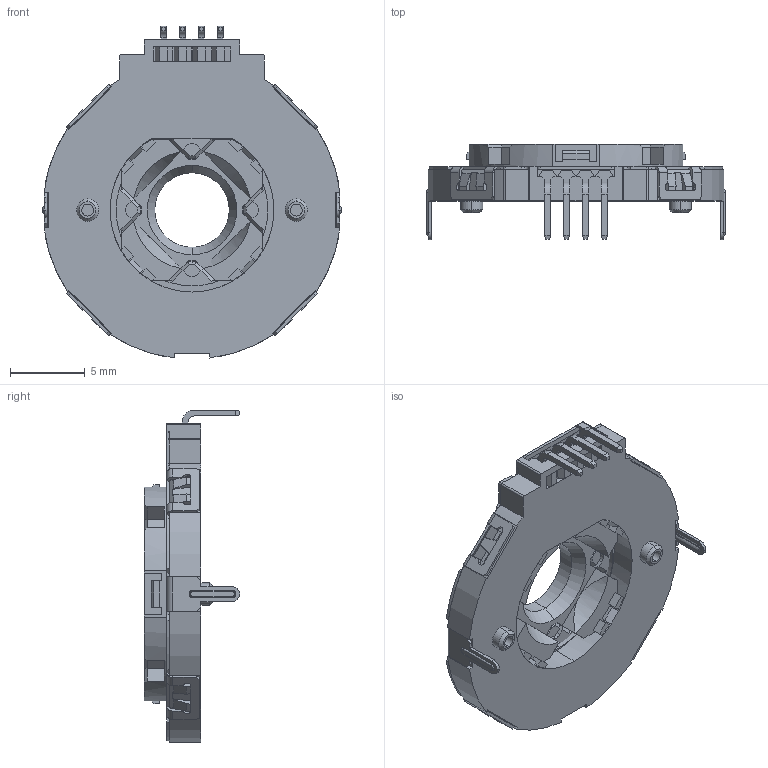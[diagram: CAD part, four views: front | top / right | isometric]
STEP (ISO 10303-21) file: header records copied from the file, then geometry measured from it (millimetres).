
FILE_DESCRIPTION (( 'STEP AP203' ), '1' );
FILE_NAME ('292V1X24A_Rev.0.STEP', '2019-12-10T03:56:54', ( '' ), ( '' ), 'SwSTEP 2.0', 'SolidWorks 2019', '' );
FILE_SCHEMA (( 'CONFIG_CONTROL_DESIGN' ));
Length unit declared in the file: millimetre
Products named in the file (14): 292-14-001-44-01 Rev.B Rotor.STEP; 0402 4.7KR 1%.STEP; 13M291L-40-002-07-15 Rev.B Cover.STEP; 13M291L-20-002B.STEP; 292-58-001-54-01 Rev.A Rubber Gasket.STEP; IR19-315C_TR8.STEP; 292V1X24A_Rev.0; 292-02-002-44-01 Rev.F MH.STEP; 292-72-001-82-01 GL.STEP; 74HCT2G14GW.STEP; ALS-PT19-315B_TR8.STEP; 292S0001_Rev.0.STEP; 0805 220R 1%.STEP; 291P505-R3GN-014_026-04.STEP
Assembly tree (16 placements, depth 3):
  292V1X24A_Rev.0
    292S0001_Rev.0.STEP
      291P505-R3GN-014_026-04.STEP
      13M291L-20-002B.STEP
      74HCT2G14GW.STEP
      IR19-315C_TR8.STEP  x2
      ALS-PT19-315B_TR8.STEP  x2
      0805 220R 1%.STEP
      13M291L-40-002-07-15 Rev.B Cover.STEP
      0402 4.7KR 1%.STEP  x2
      292-72-001-82-01 GL.STEP
      292-14-001-44-01 Rev.B Rotor.STEP
      292-58-001-54-01 Rev.A Rubber Gasket.STEP
      292-02-002-44-01 Rev.F MH.STEP
Bounding box: 20 x 6.4 x 22.28 mm (x, y, z)
Volume: 392.8 mm3; surface area: 2969.9 mm2
Topology: 51 solids, 53 shells, 2818 faces, 7618 edges, 4965 vertices
Faces by surface type: plane 2029, cylinder 455, bspline 191, cone 129, torus 14
Entity records: 91568 total; most frequent: CARTESIAN_POINT 30241, ORIENTED_EDGE 13630, DIRECTION 10456, EDGE_CURVE 6817, VERTEX_POINT 4431, VECTOR 3970, LINE 3970, AXIS2_PLACEMENT_3D 3243
